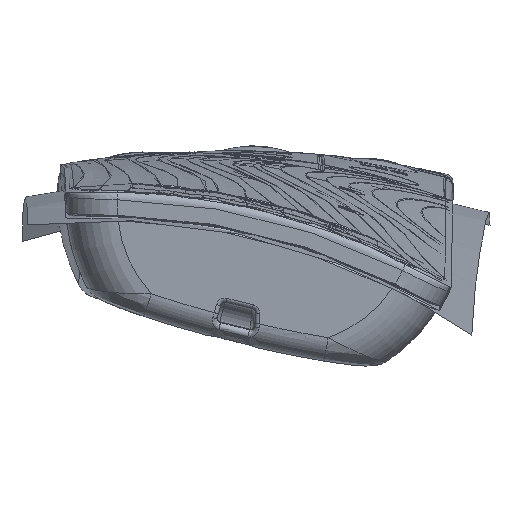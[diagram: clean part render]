
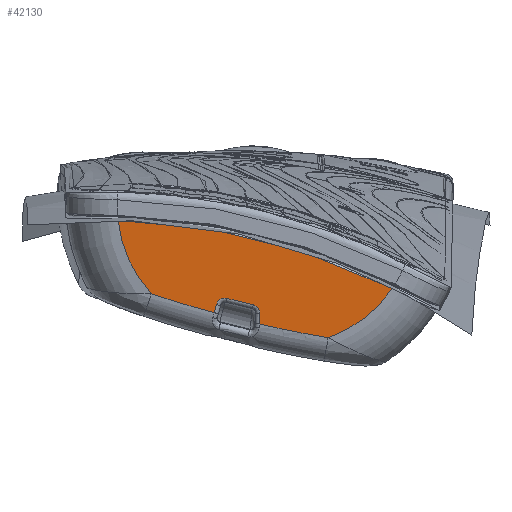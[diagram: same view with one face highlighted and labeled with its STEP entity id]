
A CAD part, top view. The second image highlights one B-rep face of the part: STEP entity #42130.
In plain terms, the highlighted planar face has unit normal (0, -0.087, 0.996).
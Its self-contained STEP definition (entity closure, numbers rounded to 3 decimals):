
#1374=CARTESIAN_POINT('',(-17.855,-75.187,
124.401));
#1375=DIRECTION('',(0.,0.087,-0.996));
#1376=DIRECTION('',(0.021,0.996,0.087));
#1377=AXIS2_PLACEMENT_3D('',#1374,#1375,#1376);
#1382=CARTESIAN_POINT('',(3.023,-0.987,
130.876));
#1383=DIRECTION('',(0.,0.087,-0.996));
#1384=DIRECTION('',(0.827,-0.56,-0.049));
#1385=AXIS2_PLACEMENT_3D('',#1382,#1383,#1384);
#1390=CARTESIAN_POINT('',(32.306,125.405,141.934));
#1391=DIRECTION('',(0.,0.087,-0.996));
#1392=DIRECTION('',(-0.17,-0.982,-0.086));
#1393=AXIS2_PLACEMENT_3D('',#1390,#1391,#1392);
#1398=DIRECTION('',(0.053,0.995,0.087));
#1399=VECTOR('',#1398,1.193);
#1400=CARTESIAN_POINT('',(0.073,-13.506,
129.781));
#1401=LINE('',#1400,#1399);
#1405=CARTESIAN_POINT('',(-0.862,-12.267,
129.889));
#1406=DIRECTION('',(0.,-0.087,0.996));
#1407=DIRECTION('',(0.999,-0.053,-0.005));
#1408=AXIS2_PLACEMENT_3D('',#1405,#1406,#1407);
#1413=DIRECTION('',(-0.97,0.241,0.021));
#1414=VECTOR('',#1413,3.147);
#1415=CARTESIAN_POINT('',(-0.62,-11.3,
129.974));
#1416=LINE('',#1415,#1414);
#1420=CARTESIAN_POINT('',(-3.916,-11.507,
129.956));
#1421=DIRECTION('',(0.,-0.087,0.996));
#1422=DIRECTION('',(0.242,0.967,0.085));
#1423=AXIS2_PLACEMENT_3D('',#1420,#1421,#1422);
#1428=DIRECTION('',(-0.259,-0.962,-0.084));
#1429=VECTOR('',#1428,0.991);
#1430=CARTESIAN_POINT('',(-4.882,-11.249,
129.978));
#1431=LINE('',#1430,#1429);
#1435=CARTESIAN_POINT('',(32.306,125.405,141.934));
#1436=DIRECTION('',(0.,0.087,-0.996));
#1437=DIRECTION('',(-0.262,-0.961,-0.084));
#1438=AXIS2_PLACEMENT_3D('',#1435,#1436,#1437);
#1443=CARTESIAN_POINT('',(-1.318,0.088,
130.97));
#1444=DIRECTION('',(0.,0.087,-0.996));
#1445=DIRECTION('',(-0.738,-0.672,-0.059));
#1446=AXIS2_PLACEMENT_3D('',#1443,#1444,#1445);
#34411=CARTESIAN_POINT('',(0.073,-13.506,
129.781));
#37668=CARTESIAN_POINT('',(8.046,-15.106,
129.641));
#37669=VERTEX_POINT('',#37668);
#37675=CARTESIAN_POINT('',(-12.431,-10.025,
130.085));
#37676=VERTEX_POINT('',#37675);
#37677=CARTESIAN_POINT('',(-5.139,-12.203,
129.895));
#37678=VERTEX_POINT('',#37677);
#37684=VERTEX_POINT('',#34411);
#37743=CARTESIAN_POINT('',(-4.882,-11.249,
129.978));
#37744=VERTEX_POINT('',#37743);
#37745=CARTESIAN_POINT('',(-16.283,-1.518,
130.83));
#37746=CARTESIAN_POINT('',(15.464,-9.4,
130.14));
#37747=VERTEX_POINT('',#37745);
#37748=VERTEX_POINT('',#37746);
#37749=CARTESIAN_POINT('',(0.136,-12.319,
129.885));
#37750=VERTEX_POINT('',#37749);
#37751=CARTESIAN_POINT('',(-0.62,-11.3,
129.974));
#37752=VERTEX_POINT('',#37751);
#37753=CARTESIAN_POINT('',(-3.674,-10.541,
130.04));
#37754=VERTEX_POINT('',#37753);
#42106=CARTESIAN_POINT('',(15.5,62.726,136.45));
#42107=DIRECTION('',(0.,-0.087,0.996));
#42108=DIRECTION('',(0.,-0.996,-0.087));
#42109=AXIS2_PLACEMENT_3D('',#42106,#42107,#42108);
#42110=PLANE('',#42109);
#42112=ORIENTED_EDGE('',*,*,#42111,.T.);
#42114=ORIENTED_EDGE('',*,*,#42113,.T.);
#42115=ORIENTED_EDGE('',*,*,#41209,.T.);
#42117=ORIENTED_EDGE('',*,*,#42116,.T.);
#42119=ORIENTED_EDGE('',*,*,#42118,.T.);
#42121=ORIENTED_EDGE('',*,*,#42120,.T.);
#42123=ORIENTED_EDGE('',*,*,#42122,.T.);
#42124=ORIENTED_EDGE('',*,*,#42097,.T.);
#42125=ORIENTED_EDGE('',*,*,#41197,.T.);
#42127=ORIENTED_EDGE('',*,*,#42126,.T.);
#42128=EDGE_LOOP('',(#42112,#42114,#42115,#42117,#42119,#42121,#42123,#42124,
#42125,#42127));
#42129=FACE_OUTER_BOUND('',#42128,.F.);
#42130=ADVANCED_FACE('',(#42129),#42110,.T.);
#1378=CIRCLE('',#1377,73.966);
#1386=CIRCLE('',#1385,15.037);
#1394=CIRCLE('',#1393,143.119);
#1409=CIRCLE('',#1408,1.);
#1424=CIRCLE('',#1423,1.);
#1439=CIRCLE('',#1438,143.119);
#1447=CIRCLE('',#1446,15.051);
#41197=EDGE_CURVE('',#37678,#37676,#1439,.T.);
#41209=EDGE_CURVE('',#37669,#37684,#1394,.T.);
#42097=EDGE_CURVE('',#37744,#37678,#1431,.T.);
#42111=EDGE_CURVE('',#37747,#37748,#1378,.T.);
#42113=EDGE_CURVE('',#37748,#37669,#1386,.T.);
#42116=EDGE_CURVE('',#37684,#37750,#1401,.T.);
#42118=EDGE_CURVE('',#37750,#37752,#1409,.T.);
#42120=EDGE_CURVE('',#37752,#37754,#1416,.T.);
#42122=EDGE_CURVE('',#37754,#37744,#1424,.T.);
#42126=EDGE_CURVE('',#37676,#37747,#1447,.T.);
